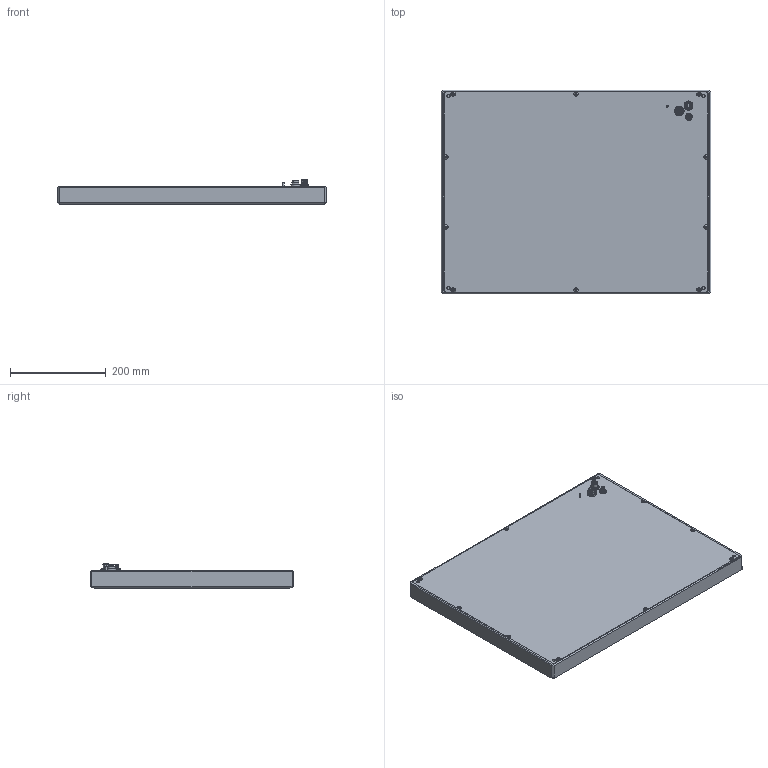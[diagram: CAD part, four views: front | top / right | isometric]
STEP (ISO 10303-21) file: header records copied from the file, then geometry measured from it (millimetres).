
FILE_DESCRIPTION((''),'2;1');
FILE_NAME('X:\0-inventor\0-3d-Teile\PC-Compo\solids\CP79xx\STEP-Ausgabe\CP7923-0001.stp','2012-01-26T10:24:46',('christianKreuzer'),(''),'Autodesk Inventor 2012','Autodesk Inventor 2012','');
FILE_SCHEMA(('AUTOMOTIVE_DESIGN { 1 0 10303 214 1 1 1 1 }'));
Length unit declared in the file: millimetre
Products named in the file (1): Bauteil24
Bounding box: 563 x 426 x 52 mm (x, y, z)
Volume: 8832463.8 mm3; surface area: 575248.6 mm2
Topology: 1 solids, 1 shells, 484 faces, 1212 edges, 759 vertices
Faces by surface type: plane 239, cylinder 133, cone 62, sphere 31, torus 15, bspline 4
Full cylindrical faces by diameter (mm): 0.5 x8, 1 x23, 4 x1, 6 x1, 6.5 x4, 6.6 x1, 7.6 x10, 7.9 x1, 8 x1, 9 x2, 11 x2, 12 x1, 16.01 x1, 18 x1, 20 x1
Entity records: 13693 total; most frequent: CARTESIAN_POINT 2706, DIRECTION 2206, ORIENTED_EDGE 2036, EDGE_CURVE 1018, AXIS2_PLACEMENT_3D 825, VERTEX_POINT 683, EDGE_LOOP 633, VECTOR 556
